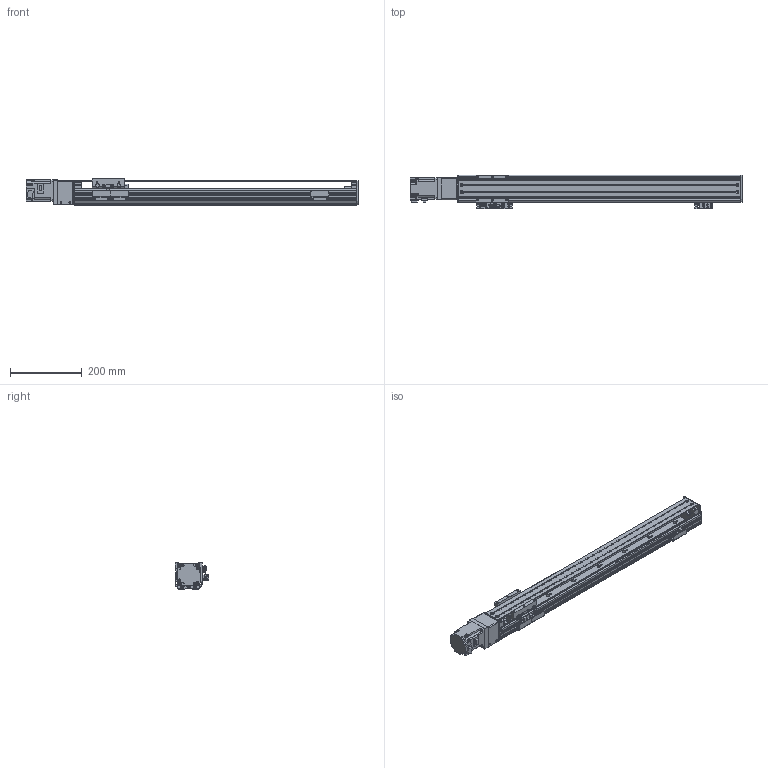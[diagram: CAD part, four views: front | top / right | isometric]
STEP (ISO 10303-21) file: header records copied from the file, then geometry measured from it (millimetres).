
FILE_DESCRIPTION(/* description */ (''),/* implementation_level */ '2;1');
FILE_NAME(/* name */ '\\192.168.0.160\disk1\HAN SHIN Master\B-설계부문\C-표준\B-2024년\BC02-표준도면\+로봇 개선표준도면\표준 승인도 작업 폴더\3D\HG75\HG75직렬\HG75-S20-N1B-0600-R10.stp',/* time_stamp */ '2024-02-01T15:51:15+09:00',/* author */ ('User'),/* organization */ (''),/* preprocessor_version */ 'ST-DEVELOPER v18.1',/* originating_system */ 'Autodesk Inventor 2022',/* authorisation */ '');
FILE_SCHEMA (('AUTOMOTIVE_DESIGN { 1 0 10303 214 3 1 1 }'));
Length unit declared in the file: millimetre
Products named in the file (21): HG75-S20-N1B-0500-R10 - 간소화; BASE; HR75 FRONT BLOCK; HR75 REAR COVER-TENTION; HR75 TENSION REAR BLOCK; HG3UPCOV001; H 15F_BLOCK; COUPLING COVER; HR75 REAR COVER; HR65,75 SENSOR DOG; HG90STOPPER - 20L; HG90STOPPER - 27L; hg-kr23_; HG75 S MOTOR PLATE-B; HG75 S MOTOR PLATE-M; hsr_ftht_A-M6F_grease_nipple_joint; NIPPLE CAP(신규); HR75 W TABLE; LMKE1520 NUT; SENSOR BRK(EE-SX674A); EE_SX674A
Assembly tree (26 placements, depth 2):
  HG75-S20-N1B-0500-R10 - 간소화
    BASE
    HR75 FRONT BLOCK
    HR75 REAR COVER-TENTION
    SENSOR BRK(EE-SX674A)  x3
    EE_SX674A  x3
    HR75 TENSION REAR BLOCK
    HG3UPCOV001
    H 15F_BLOCK
    COUPLING COVER
    HR75 REAR COVER
    HR65,75 SENSOR DOG
    HG90STOPPER - 20L
    HG90STOPPER - 27L
    hg-kr23_
    HG75 S MOTOR PLATE-B
    HG75 S MOTOR PLATE-M
    hsr_ftht_A-M6F_grease_nipple_joint  x2
    NIPPLE CAP(신규)  x2
    HR75 W TABLE
    LMKE1520 NUT
Bounding box: 927.6 x 94 x 73 mm (x, y, z)
Volume: 1471088 mm3; surface area: 613665.2 mm2
Topology: 26 solids, 26 shells, 1492 faces, 3981 edges, 2614 vertices
Faces by surface type: plane 744, cylinder 587, cone 125, sphere 16, torus 12, bspline 8
Full cylindrical faces by diameter (mm): 2 x4, 2.013 x2, 2.459 x12, 3 x4, 3.242 x30, 3.5 x6, 4.134 x53, 4.5 x18, 4.917 x5, 5 x38, 5.5 x37, 5.6 x10, 5.8 x4, 5.9 x8, 6 x6, 6.5 x4, 9.5 x33, 14 x1, 15 x3, 17 x1, 25 x2, 28 x1, 32 x2, 33.7 x1, 34 x1, 40 x1, 50 x2
Entity records: 41161 total; most frequent: CARTESIAN_POINT 7846, DIRECTION 6922, ORIENTED_EDGE 6522, EDGE_CURVE 3261, AXIS2_PLACEMENT_3D 2493, VERTEX_POINT 2175, LINE 1936, VECTOR 1936
